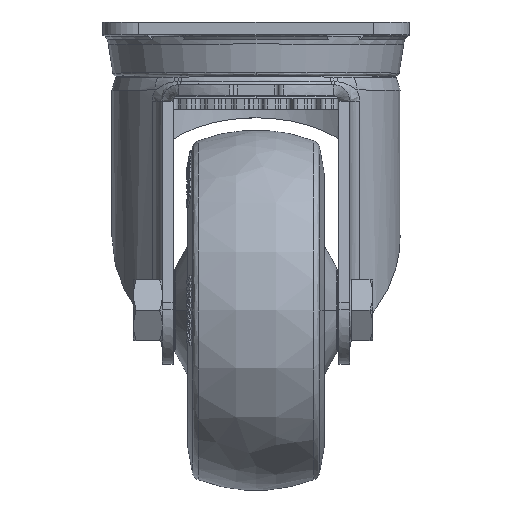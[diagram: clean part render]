
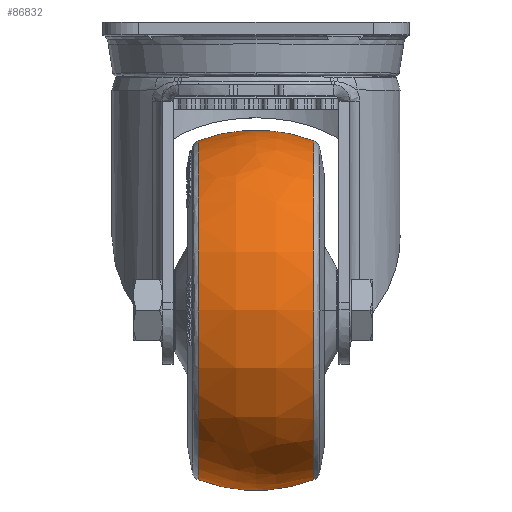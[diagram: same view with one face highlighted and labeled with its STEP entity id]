
A CAD part, top view. The second image highlights one B-rep face of the part: STEP entity #86832.
In plain terms, the highlighted free-form (B-spline) face has degree [3, 3] with [4, 4] control points.
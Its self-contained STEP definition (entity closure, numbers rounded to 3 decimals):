
#3837 = EDGE_LOOP ( 'NONE', ( #40054, #40053, #40055, #40056 ) ) ;
#24823 = FACE_OUTER_BOUND ( 'NONE', #3837, .T. ) ;
#27275 = CARTESIAN_POINT ( 'NONE',  ( 16.087, 47.026, 94.052 ) ) ;
#27284 = CARTESIAN_POINT ( 'NONE',  ( 16.087, -47.026, 94.052 ) ) ;
#27294 = CARTESIAN_POINT ( 'NONE',  ( 16.087, 47.026, 0. ) ) ;
#27296 = CARTESIAN_POINT ( 'NONE',  ( 16.087, -47.026, 0. ) ) ;
#27297 = CARTESIAN_POINT ( 'NONE',  ( 5.61, 51.037, 0. ) ) ;
#27298 = CARTESIAN_POINT ( 'NONE',  ( 5.61, 51.037, 102.074 ) ) ;
#27299 = CARTESIAN_POINT ( 'NONE',  ( 5.61, -51.037, 102.074 ) ) ;
#27300 = CARTESIAN_POINT ( 'NONE',  ( 5.61, -51.037, 0. ) ) ;
#27301 = CARTESIAN_POINT ( 'NONE',  ( -5.61, 51.037, 0. ) ) ;
#27302 = CARTESIAN_POINT ( 'NONE',  ( -5.61, 51.037, 102.074 ) ) ;
#27303 = CARTESIAN_POINT ( 'NONE',  ( -5.61, -51.037, 102.074 ) ) ;
#27304 = CARTESIAN_POINT ( 'NONE',  ( -5.61, -51.037, 0. ) ) ;
#27305 = CARTESIAN_POINT ( 'NONE',  ( -16.087, 47.026, 0. ) ) ;
#27306 = CARTESIAN_POINT ( 'NONE',  ( -16.087, 47.026, 94.052 ) ) ;
#27307 = CARTESIAN_POINT ( 'NONE',  ( -16.087, -47.026, 94.052 ) ) ;
#27308 = CARTESIAN_POINT ( 'NONE',  ( -16.087, -47.026, 0. ) ) ;
#40053 = ORIENTED_EDGE ( 'NONE', *, *, #70736, .T. ) ;
#40054 = ORIENTED_EDGE ( 'NONE', *, *, #70742, .T. ) ;
#40055 = ORIENTED_EDGE ( 'NONE', *, *, #70738, .T. ) ;
#40056 = ORIENTED_EDGE ( 'NONE', *, *, #70741, .F. ) ;
#53451 = CARTESIAN_POINT ( 'NONE',  ( 16.087, -47.026, 0. ) ) ;
#53463 = CARTESIAN_POINT ( 'NONE',  ( 16.087, 47.026, 0. ) ) ;
#53476 = CARTESIAN_POINT ( 'NONE',  ( -16.087, -47.026, 0. ) ) ;
#53488 = CARTESIAN_POINT ( 'NONE',  ( -16.087, 47.026, 0. ) ) ;
#54571 = CARTESIAN_POINT ( 'NONE',  ( 0., -5., 0. ) ) ;
#54581 = CARTESIAN_POINT ( 'NONE',  ( 0., 5., 0. ) ) ;
#54592 = DIRECTION ( 'NONE',  ( 0., 0., 1. ) ) ;
#54594 = DIRECTION ( 'NONE',  ( 0., 1., 0. ) ) ;
#54603 = CARTESIAN_POINT ( 'NONE',  ( -16.087, 0., 0. ) ) ;
#54607 = DIRECTION ( 'NONE',  ( 1., 0., 0. ) ) ;
#54609 = DIRECTION ( 'NONE',  ( 0., -1., 0. ) ) ;
#54612 = CARTESIAN_POINT ( 'NONE',  ( 16.087, 0., 0. ) ) ;
#54625 = DIRECTION ( 'NONE',  ( 0., 0., -1. ) ) ;
#54628 = DIRECTION ( 'NONE',  ( 0., -1., 0. ) ) ;
#54634 = DIRECTION ( 'NONE',  ( -1., 0., 0. ) ) ;
#54636 = DIRECTION ( 'NONE',  ( 0., -1., 0. ) ) ;
#57140 = CIRCLE ( 'NONE', #63648, 45. ) ;
#57142 = CIRCLE ( 'NONE', #63650, 47.026 ) ;
#57144 = CIRCLE ( 'NONE', #63653, 45. ) ;
#57145 = CIRCLE ( 'NONE', #63654, 47.026 ) ;
#63648 = AXIS2_PLACEMENT_3D ( 'NONE', #54581, #54592, #54594 ) ;
#63650 = AXIS2_PLACEMENT_3D ( 'NONE', #54603, #54607, #54609 ) ;
#63653 = AXIS2_PLACEMENT_3D ( 'NONE', #54571, #54625, #54628 ) ;
#63654 = AXIS2_PLACEMENT_3D ( 'NONE', #54612, #54634, #54636 ) ;
#70736 = EDGE_CURVE ( 'NONE', #74510, #74534, #57140, .T. ) ;
#70738 = EDGE_CURVE ( 'NONE', #74534, #74521, #57142, .T. ) ;
#70741 = EDGE_CURVE ( 'NONE', #74495, #74521, #57144, .T. ) ;
#70742 = EDGE_CURVE ( 'NONE', #74495, #74510, #57145, .T. ) ;
#74495 = VERTEX_POINT ( 'NONE', #53451 ) ;
#74510 = VERTEX_POINT ( 'NONE', #53463 ) ;
#74521 = VERTEX_POINT ( 'NONE', #53476 ) ;
#74534 = VERTEX_POINT ( 'NONE', #53488 ) ;
#85621 =( BOUNDED_SURFACE ( )  B_SPLINE_SURFACE ( 3, 3, ( 
 ( #27294, #27275, #27284, #27296 ),
 ( #27297, #27298, #27299, #27300 ),
 ( #27301, #27302, #27303, #27304 ),
 ( #27305, #27306, #27307, #27308 ) ),
 .UNSPECIFIED., .F., .F., .F. ) 
 B_SPLINE_SURFACE_WITH_KNOTS ( ( 4, 4 ),
 ( 4, 4 ),
 ( 0., 1. ),
 ( 0., 1. ),
 .UNSPECIFIED. ) 
 GEOMETRIC_REPRESENTATION_ITEM ( )  RATIONAL_B_SPLINE_SURFACE ( (
 ( 1., 0.333, 0.333, 1.),
 ( 0.956, 0.319, 0.319, 0.956),
 ( 0.956, 0.319, 0.319, 0.956),
 ( 1., 0.333, 0.333, 1.) ) ) 
 REPRESENTATION_ITEM ( '' )  SURFACE ( )  );
#86832 = ADVANCED_FACE ( 'NONE', ( #24823 ), #85621, .T. ) ;
